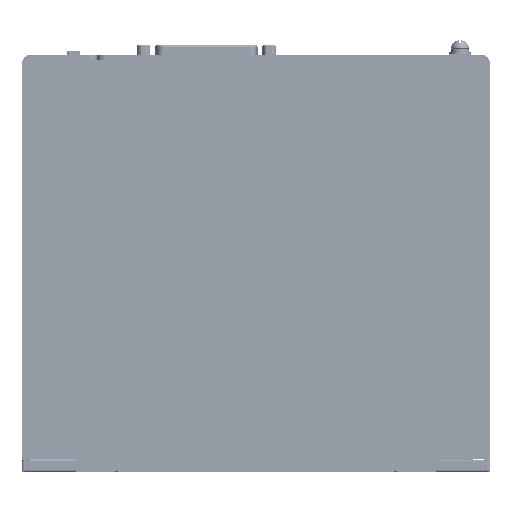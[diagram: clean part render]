
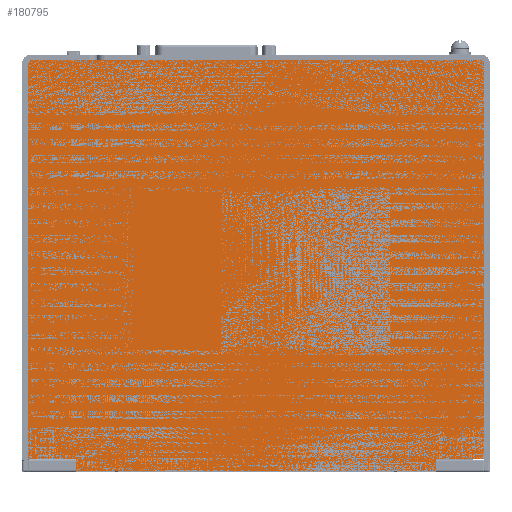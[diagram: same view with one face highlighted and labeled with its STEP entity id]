
A CAD part, left-side view. The second image highlights one B-rep face of the part: STEP entity #180795.
In plain terms, the highlighted planar face has unit normal (-1, 0, 0).
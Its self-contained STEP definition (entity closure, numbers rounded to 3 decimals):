
#176117=DIRECTION('',(0.,-1.,0.));
#176118=VECTOR('',#176117,135.);
#176119=CARTESIAN_POINT('',(0.,155.,-155.8));
#176120=LINE('',#176119,#176118);
#176121=DIRECTION('',(0.,0.,1.));
#176122=VECTOR('',#176121,4.45);
#176123=CARTESIAN_POINT('',(0.,155.,-155.8));
#176124=LINE('',#176123,#176122);
#176125=DIRECTION('',(0.,-1.,0.));
#176126=VECTOR('',#176125,18.);
#176127=CARTESIAN_POINT('',(0.,173.,-151.35));
#176128=LINE('',#176127,#176126);
#176129=DIRECTION('',(0.,0.,1.));
#176130=VECTOR('',#176129,148.35);
#176131=CARTESIAN_POINT('',(0.,173.,-151.35));
#176132=LINE('',#176131,#176130);
#176133=CARTESIAN_POINT('',(0.,172.,-3.));
#176134=DIRECTION('',(-1.,0.,0.));
#176135=DIRECTION('',(0.,0.,1.));
#176136=AXIS2_PLACEMENT_3D('',#176133,#176134,#176135);
#176138=DIRECTION('',(0.,-1.,0.));
#176139=VECTOR('',#176138,169.);
#176140=CARTESIAN_POINT('',(0.,172.,-2.));
#176141=LINE('',#176140,#176139);
#176142=CARTESIAN_POINT('',(0.,3.,-3.));
#176143=DIRECTION('',(-1.,0.,0.));
#176144=DIRECTION('',(0.,-1.,0.));
#176145=AXIS2_PLACEMENT_3D('',#176142,#176143,#176144);
#176147=DIRECTION('',(0.,0.,1.));
#176148=VECTOR('',#176147,148.35);
#176149=CARTESIAN_POINT('',(0.,2.,-151.35));
#176150=LINE('',#176149,#176148);
#176151=DIRECTION('',(0.,-1.,0.));
#176152=VECTOR('',#176151,18.);
#176153=CARTESIAN_POINT('',(0.,20.,-151.35));
#176154=LINE('',#176153,#176152);
#176155=DIRECTION('',(0.,0.,1.));
#176156=VECTOR('',#176155,4.45);
#176157=CARTESIAN_POINT('',(0.,20.,-155.8));
#176158=LINE('',#176157,#176156);
#179768=CARTESIAN_POINT('',(0.,172.,-2.));
#179769=CARTESIAN_POINT('',(0.,173.,-3.));
#179770=VERTEX_POINT('',#179768);
#179771=VERTEX_POINT('',#179769);
#179772=CARTESIAN_POINT('',(0.,3.,-2.));
#179773=VERTEX_POINT('',#179772);
#179774=CARTESIAN_POINT('',(0.,2.,-3.));
#179775=VERTEX_POINT('',#179774);
#179936=CARTESIAN_POINT('',(0.,173.,-151.35));
#179937=CARTESIAN_POINT('',(0.,155.,-151.35));
#179938=VERTEX_POINT('',#179936);
#179939=VERTEX_POINT('',#179937);
#179940=CARTESIAN_POINT('',(0.,20.,-151.35));
#179941=CARTESIAN_POINT('',(0.,2.,-151.35));
#179942=VERTEX_POINT('',#179940);
#179943=VERTEX_POINT('',#179941);
#179976=CARTESIAN_POINT('',(0.,155.,-155.8));
#179977=CARTESIAN_POINT('',(0.,20.,-155.8));
#179978=VERTEX_POINT('',#179976);
#179979=VERTEX_POINT('',#179977);
#180768=CARTESIAN_POINT('',(0.,0.,0.));
#180769=DIRECTION('',(-1.,0.,0.));
#180770=DIRECTION('',(0.,-1.,0.));
#180771=AXIS2_PLACEMENT_3D('',#180768,#180769,#180770);
#180772=PLANE('',#180771);
#180774=ORIENTED_EDGE('',*,*,#180773,.F.);
#180776=ORIENTED_EDGE('',*,*,#180775,.T.);
#180778=ORIENTED_EDGE('',*,*,#180777,.F.);
#180780=ORIENTED_EDGE('',*,*,#180779,.T.);
#180782=ORIENTED_EDGE('',*,*,#180781,.F.);
#180784=ORIENTED_EDGE('',*,*,#180783,.T.);
#180786=ORIENTED_EDGE('',*,*,#180785,.F.);
#180788=ORIENTED_EDGE('',*,*,#180787,.F.);
#180790=ORIENTED_EDGE('',*,*,#180789,.F.);
#180792=ORIENTED_EDGE('',*,*,#180791,.F.);
#180793=EDGE_LOOP('',(#180774,#180776,#180778,#180780,#180782,#180784,#180786,
#180788,#180790,#180792));
#180794=FACE_OUTER_BOUND('',#180793,.F.);
#180795=ADVANCED_FACE('',(#180794),#180772,.T.);
#176137=CIRCLE('',#176136,1.);
#176146=CIRCLE('',#176145,1.);
#180773=EDGE_CURVE('',#179978,#179979,#176120,.T.);
#180775=EDGE_CURVE('',#179978,#179939,#176124,.T.);
#180777=EDGE_CURVE('',#179938,#179939,#176128,.T.);
#180779=EDGE_CURVE('',#179938,#179771,#176132,.T.);
#180781=EDGE_CURVE('',#179770,#179771,#176137,.T.);
#180783=EDGE_CURVE('',#179770,#179773,#176141,.T.);
#180785=EDGE_CURVE('',#179775,#179773,#176146,.T.);
#180787=EDGE_CURVE('',#179943,#179775,#176150,.T.);
#180789=EDGE_CURVE('',#179942,#179943,#176154,.T.);
#180791=EDGE_CURVE('',#179979,#179942,#176158,.T.);
